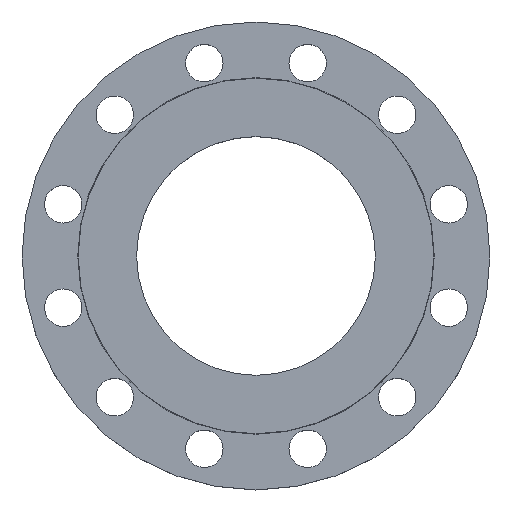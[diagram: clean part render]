
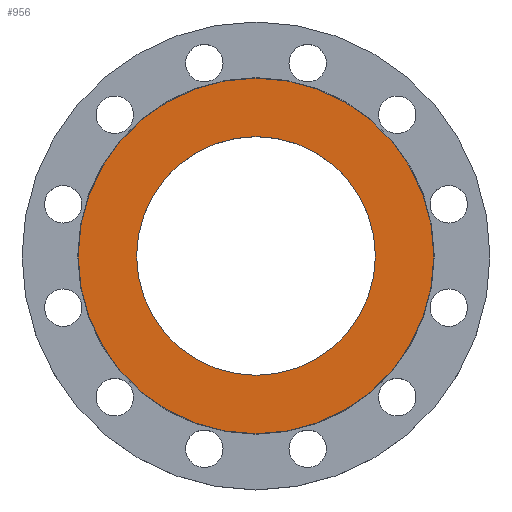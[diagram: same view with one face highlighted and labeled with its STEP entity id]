
A CAD part, top view. The second image highlights one B-rep face of the part: STEP entity #956.
In plain terms, the highlighted planar face has unit normal (0, 0, 1).
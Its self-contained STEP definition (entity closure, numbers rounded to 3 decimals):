
#96 = CARTESIAN_POINT ( 'NONE',  ( 95.67, 0., 0. ) ) ;
#188 = CARTESIAN_POINT ( 'NONE',  ( -95.67, 0., 0. ) ) ;
#255 = CARTESIAN_POINT ( 'NONE',  ( -142.5, 0., 0. ) ) ;
#279 = DIRECTION ( 'NONE',  ( 0., 0., -1. ) ) ;
#300 = DIRECTION ( 'NONE',  ( 1., 0., 0. ) ) ;
#301 = DIRECTION ( 'NONE',  ( 0., 0., 1. ) ) ;
#302 = CARTESIAN_POINT ( 'NONE',  ( 0., 0., 0. ) ) ;
#303 = PLANE ( 'NONE',  #738 ) ;
#305 = FACE_OUTER_BOUND ( 'NONE', #1118, .T. ) ;
#306 = FACE_BOUND ( 'NONE', #716, .T. ) ;
#327 = CARTESIAN_POINT ( 'NONE',  ( 142.5, 0., 0. ) ) ;
#398 = CIRCLE ( 'NONE', #425, 142.5 ) ;
#425 = AXIS2_PLACEMENT_3D ( 'NONE', #661, #658, #659 ) ;
#430 = CIRCLE ( 'NONE', #431, 95.67 ) ;
#431 = AXIS2_PLACEMENT_3D ( 'NONE', #652, #650, #648 ) ;
#436 = EDGE_CURVE ( 'NONE', #940, #987, #398, .T. ) ;
#509 = EDGE_CURVE ( 'NONE', #1056, #1145, #430, .T. ) ;
#550 = DIRECTION ( 'NONE',  ( 1., 0., 0. ) ) ;
#552 = DIRECTION ( 'NONE',  ( 0., 0., 1. ) ) ;
#553 = CARTESIAN_POINT ( 'NONE',  ( 0., 0., 0. ) ) ;
#648 = DIRECTION ( 'NONE',  ( 1., 0., 0. ) ) ;
#650 = DIRECTION ( 'NONE',  ( 0., 0., 1. ) ) ;
#652 = CARTESIAN_POINT ( 'NONE',  ( 0., 0., 0. ) ) ;
#658 = DIRECTION ( 'NONE',  ( 0., 0., -1. ) ) ;
#659 = DIRECTION ( 'NONE',  ( -1., 0., 0. ) ) ;
#661 = CARTESIAN_POINT ( 'NONE',  ( 0., 0., 0. ) ) ;
#716 = EDGE_LOOP ( 'NONE', ( #855, #857 ) ) ;
#738 = AXIS2_PLACEMENT_3D ( 'NONE', #302, #301, #300 ) ;
#753 = EDGE_CURVE ( 'NONE', #1145, #1056, #854, .T. ) ;
#786 = CIRCLE ( 'NONE', #791, 142.5 ) ;
#791 = AXIS2_PLACEMENT_3D ( 'NONE', #1163, #279, #795 ) ;
#795 = DIRECTION ( 'NONE',  ( -1., 0., 0. ) ) ;
#852 = AXIS2_PLACEMENT_3D ( 'NONE', #553, #552, #550 ) ;
#854 = CIRCLE ( 'NONE', #852, 95.67 ) ;
#855 = ORIENTED_EDGE ( 'NONE', *, *, #753, .F. ) ;
#857 = ORIENTED_EDGE ( 'NONE', *, *, #509, .F. ) ;
#860 = ORIENTED_EDGE ( 'NONE', *, *, #1208, .F. ) ;
#862 = ORIENTED_EDGE ( 'NONE', *, *, #436, .F. ) ;
#940 = VERTEX_POINT ( 'NONE', #327 ) ;
#956 = ADVANCED_FACE ( 'NONE', ( #306, #305 ), #303, .T. ) ;
#987 = VERTEX_POINT ( 'NONE', #255 ) ;
#1056 = VERTEX_POINT ( 'NONE', #188 ) ;
#1118 = EDGE_LOOP ( 'NONE', ( #860, #862 ) ) ;
#1145 = VERTEX_POINT ( 'NONE', #96 ) ;
#1163 = CARTESIAN_POINT ( 'NONE',  ( 0., 0., 0. ) ) ;
#1208 = EDGE_CURVE ( 'NONE', #987, #940, #786, .T. ) ;
